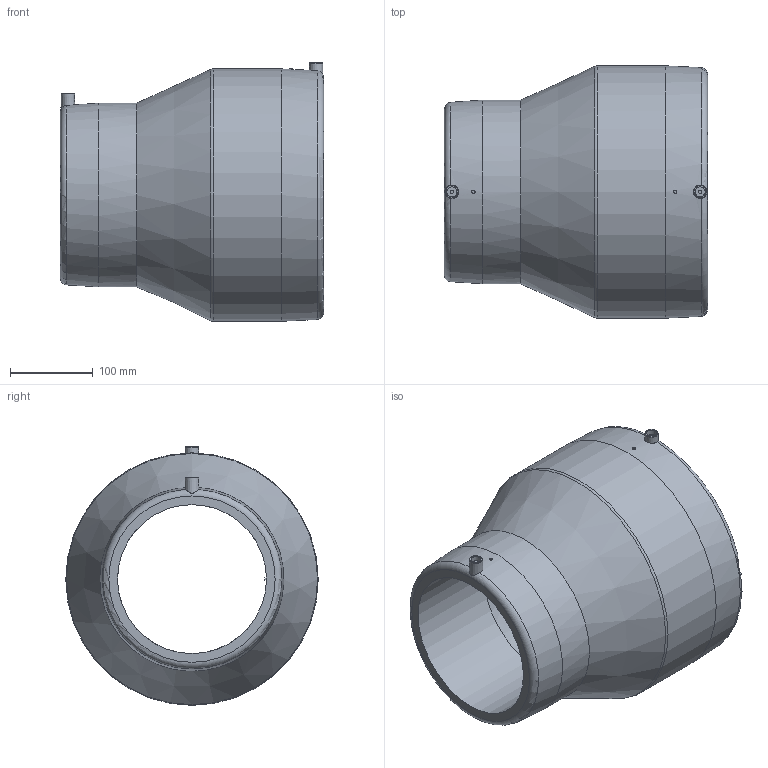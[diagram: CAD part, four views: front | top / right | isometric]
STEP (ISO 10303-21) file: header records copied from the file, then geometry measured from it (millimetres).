
FILE_DESCRIPTION(/* description */ ('Unknown'),/* implementation_level */ '2;1');
FILE_NAME(/* name */ 'REP250180C',/* time_stamp */ '2021-05-25T17:29:34+02:00',/* author */ ('Unknown'),/* organization */ ('Unknown'),/* preprocessor_version */ 'ST-DEVELOPER v16.7',/* originating_system */ 'Solid Edge',/* authorisation */ 'Unknown');
FILE_SCHEMA (('AUTOMOTIVE_DESIGN {1 0 10303 214 3 1 1}'));
Length unit declared in the file: millimetre
Products named in the file (1): REP250180C
Bounding box: 318 x 305 x 312.5 mm (x, y, z)
Volume: 6497575.5 mm3; surface area: 525417.6 mm2
Topology: 1 solids, 1 shells, 36 faces, 79 edges, 50 vertices
Faces by surface type: plane 15, cylinder 10, cone 6, torus 5
Full cylindrical faces by diameter (mm): 4 x4, 12 x2, 180 x1, 222 x1, 250 x1, 305 x1
Entity records: 860 total; most frequent: CARTESIAN_POINT 188, DIRECTION 142, ORIENTED_EDGE 90, AXIS2_PLACEMENT_3D 66, EDGE_LOOP 65, FACE_BOUND 65, EDGE_CURVE 45, VERTEX_POINT 38
